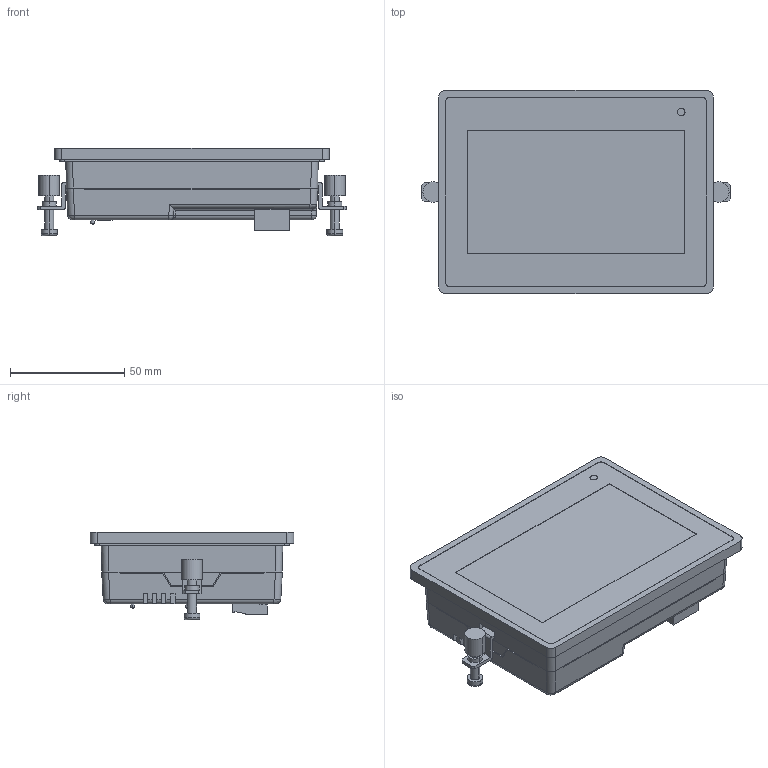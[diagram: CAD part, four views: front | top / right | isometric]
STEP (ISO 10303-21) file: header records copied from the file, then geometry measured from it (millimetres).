
FILE_DESCRIPTION (( 'STEP AP214' ), '1' );
FILE_NAME ('WP4043A(AP).STEP', '2024-05-24T16:14:02', ( '' ), ( '' ), 'SwSTEP 2.0', 'SolidWorks 2019', '' );
FILE_SCHEMA (( 'AUTOMOTIVE_DESIGN' ));
Length unit declared in the file: millimetre
Products named in the file (1): WP4043A(AP)
Bounding box: 135.02 x 89 x 38.5 mm (x, y, z)
Volume: 267252.1 mm3; surface area: 41599.2 mm2
Topology: 3 solids, 3 shells, 1026 faces, 2817 edges, 1838 vertices
Faces by surface type: plane 717, cylinder 262, bspline 18, cone 14, sphere 11, torus 4
Entity records: 32862 total; most frequent: CARTESIAN_POINT 6927, ORIENTED_EDGE 5614, DIRECTION 5149, EDGE_CURVE 2807, LINE 1963, VECTOR 1963, VERTEX_POINT 1838, AXIS2_PLACEMENT_3D 1593
